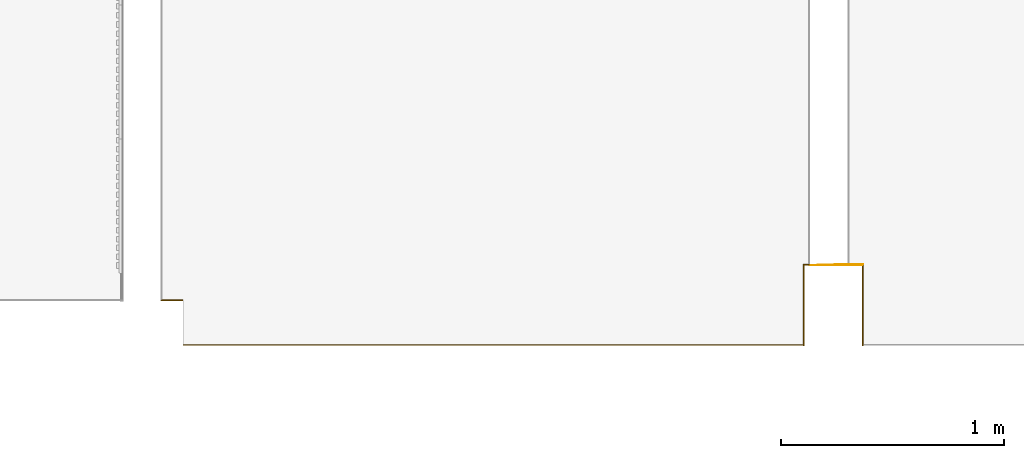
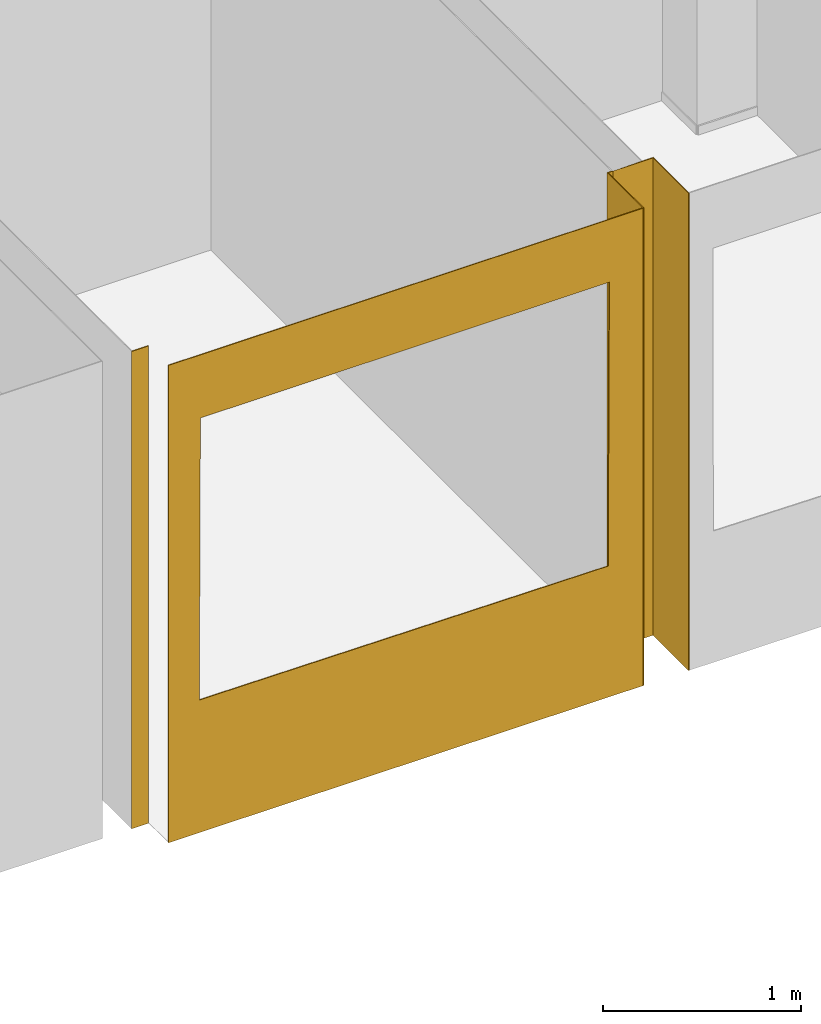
# One storey, part 6 of 33: 6 coverings, 1 opening.
"""IFC2X3 building model written with IfcOpenShell, lengths in millimetres."""

from ifc_helpers import new_model, entity, si_unit, converted_unit, derived_unit, money_unit, direction, frame, origin_with_axes, place, context, subcontext, project, spatial, polyline, outline, extrude, material, type_object, element, save


model = new_model("IFC2X3")

# Units and contexts
model_context = context("Model", 3, precision=0.01, world=origin_with_axes(), true_north=direction((0.0, 1.0)))
body_context = subcontext(model_context, "Body", "Model", "MODEL_VIEW")
ifc_project = project(units=[si_unit("LENGTHUNIT", "METRE", prefix="MILLI"), si_unit("AREAUNIT", "SQUARE_METRE"), si_unit("VOLUMEUNIT", "CUBIC_METRE"), converted_unit("PLANEANGLEUNIT", "DEGREE", entity("IfcPlaneAngleMeasure", 0.0174532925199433), si_unit("PLANEANGLEUNIT", "RADIAN"), dimensions=[0, 0, 0, 0, 0, 0, 0]), money_unit("EUR"), converted_unit("TIMEUNIT", "Year", entity("IfcTimeMeasure", 31556926.0), si_unit("TIMEUNIT", "SECOND"), dimensions=[0, 0, 1, 0, 0, 0, 0]), si_unit("MASSUNIT", "GRAM", prefix="KILO"), si_unit("THERMODYNAMICTEMPERATUREUNIT", "DEGREE_CELSIUS"), si_unit("LUMINOUSINTENSITYUNIT", "LUMEN"), si_unit("ENERGYUNIT", "JOULE", prefix="MEGA"), derived_unit("THERMALCONDUCTANCEUNIT", [(si_unit("POWERUNIT", "WATT"), 1), (si_unit("LENGTHUNIT", "METRE"), -1), (si_unit("THERMODYNAMICTEMPERATUREUNIT", "KELVIN"), -1)]), derived_unit("SPECIFICHEATCAPACITYUNIT", [(si_unit("ENERGYUNIT", "JOULE"), 1), (si_unit("MASSUNIT", "GRAM", prefix="KILO"), -1), (si_unit("THERMODYNAMICTEMPERATUREUNIT", "KELVIN"), -1)]), derived_unit("MASSDENSITYUNIT", [(si_unit("MASSUNIT", "GRAM", prefix="KILO"), 1), (si_unit("VOLUMEUNIT", "CUBIC_METRE"), -1)])], contexts=[model_context])

# Site, building, storey
site_placement = place(None, origin_with_axes())
site = spatial("IfcSite", under=ifc_project, at=site_placement, Name="Paldiski mnt 245/1, Tallinn, Harjumaa", CompositionType="COMPLEX")
building_placement = place(site_placement, origin_with_axes())
building = spatial("IfcBuilding", under=site, at=building_placement, Name="RKAS Hoone üldnimetus (kasutust iseloomustav) -> IFC Project Manager -> SOLIBRI", CompositionType="ELEMENT")
storey_placement = place(building_placement, origin_with_axes())
storey = spatial("IfcBuildingStorey", under=building, at=storey_placement, Name="Esimene korrus", CompositionType="ELEMENT", Elevation=0.0)

# Coverings
ifc_material_1 = material(Name="SA- Värv SM10(tumehall)")
covering_type_1 = type_object("IfcCoveringType", Name="SA- Värv SM10(tumehall) 5", PredefinedType="CLADDING")
covering_1_placement = place(storey_placement, frame((-35550.00000000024, -12150.08408706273, 0.0), z_axis=(0.0, 0.0, 1.0), x_axis=(1.0, 0.0, 0.0)))
element("IfcCovering", 1, at=covering_1_placement, inside=storey, type_object=covering_type_1, material=ifc_material_1, Name="SM10", PredefinedType="CLADDING", context=body_context, shape_type="SweptSolid", body=[
    extrude(outline(polyline([(0.0, 0.0), (25.00000000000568, 0.0), (19.99999999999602, 5.000000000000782), (-5.000000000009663, 5.000000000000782), (0.0, 0.0)])), origin_with_axes(), (0.0, 0.0, 1.0), 2950.0),
])
covering_2_placement = place(storey_placement, frame((-35550.00000000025, -12510.08408706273, 0.0), z_axis=(0.0, 0.0, 1.0), x_axis=(0.0, 1.0, 0.0)))
element("IfcCovering", 2, at=covering_2_placement, inside=storey, type_object=covering_type_1, material=ifc_material_1, Name="SM10", PredefinedType="CLADDING", context=body_context, shape_type="SweptSolid", body=[
    extrude(outline(polyline([(-0.0002140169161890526, 0.0), (360.0000000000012, 0.0), (365.000000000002, 5.000000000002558), (-0.0002140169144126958, 5.000000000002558), (-0.0002140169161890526, 0.0)])), origin_with_axes(), (0.0, 0.0, 1.0), 2950.0),
])
ifc_material_2 = material(Name="SA- Värv SM5(valge)")
covering_type_2 = type_object("IfcCoveringType", Name="SA- Värv SM5(valge) 5", PredefinedType="CLADDING")
covering_3_placement = place(storey_placement, frame((-35440.00000000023, -12150.08408706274, 0.0), z_axis=(0.0, 0.0, 1.0), x_axis=(1.0, 0.0, 0.0)))
element("IfcCovering", 3, at=covering_3_placement, inside=storey, type_object=covering_type_2, material=ifc_material_2, Name="SM1", PredefinedType="CLADDING", context=body_context, shape_type="SweptSolid", body=[
    extrude(outline(polyline([(-84.99999999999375, 0.0), (149.9999999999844, 0.0), (154.9999999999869, 5.000000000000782), (85.00000000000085, 5.000000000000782), (-84.99999999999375, 0.0)])), origin_with_axes(), (0.0, 0.0, 1.0), 2950.0),
])

# Covering, opening
covering_4_placement = place(storey_placement, frame((-38330.00000220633, -12510.08408706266, 0.0), z_axis=(0.0, 0.0, 1.0), x_axis=(1.0, 0.0, 0.0)))
covering_4 = element("IfcCovering", 4, at=covering_4_placement, inside=storey, type_object=covering_type_2, material=ifc_material_2, Name="SM5", PredefinedType="CLADDING", context=body_context, shape_type="SweptSolid", body=[
    extrude(outline(polyline([(0.0, 0.0), (2780.00000220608, 0.0), (2780.00000220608, 5.000000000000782), (0.0, 5.000000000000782), (0.0, 0.0)])), origin_with_axes(), (0.0, 0.0, 1.0), 2950.0),
])
opening_placement = place(covering_4_placement, frame((38330.00000220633, 12510.08408706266, 0.0), z_axis=(0.0, 0.0, 1.0), x_axis=(1.0, 0.0, 0.0)))
element("IfcOpeningElement", 5, at=opening_placement, cuts=covering_4, Name="AVA", ObjectType="OPENING", context=body_context, shape_type="SweptSolid", body=[
    extrude(outline(polyline([(-1198.440647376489, -867.0059070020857), (1191.7448214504, -876.2373176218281), (1198.440647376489, 876.2373176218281), (-1192.451388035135, 873.7626823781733), (-1198.440647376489, -867.0059070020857)])), frame((-36950.66996179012, -12515.0840870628, 1686.237317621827), z_axis=(0.0, -1.0, 0.0), x_axis=(1.0, 0.0, 0.0)), (0.0, 0.0, -1.0), 15.00000000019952),
])

# Coverings
covering_5_placement = place(storey_placement, frame((-38430.00013121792, -12310.08410232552, 0.0), z_axis=(0.0, 0.0, 1.0), x_axis=(0.9999999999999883, 1.526283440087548e-07, 0.0)))
element("IfcCovering", 6, at=covering_5_placement, inside=storey, type_object=covering_type_2, material=ifc_material_2, Name="SM5", PredefinedType="CLADDING", context=body_context, shape_type="SweptSolid", body=[
    extrude(outline(polyline([(0.0, 0.0), (100.0001290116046, 0.0), (100.0001293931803, 5.000000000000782), (5.000000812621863, 5.000000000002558), (0.0, 0.0)])), origin_with_axes(), (0.0, 0.0, 1.0), 2950.0),
])
covering_6_placement = place(storey_placement, frame((-35290.00000000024, -12150.08408706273, 0.0), z_axis=(0.0, 0.0, 1.0), x_axis=(0.0, -1.0, 0.0)))
element("IfcCovering", 7, at=covering_6_placement, inside=storey, type_object=covering_type_2, material=ifc_material_2, Name="SM5", PredefinedType="CLADDING", context=body_context, shape_type="SweptSolid", body=[
    extrude(outline(polyline([(0.0, 0.0), (360.0002140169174, 0.0), (360.0002140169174, 5.000000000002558), (-5.000000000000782, 5.000000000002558), (0.0, 0.0)])), origin_with_axes(), (0.0, 0.0, 1.0), 2950.0),
])

save(model, "model.ifc")
